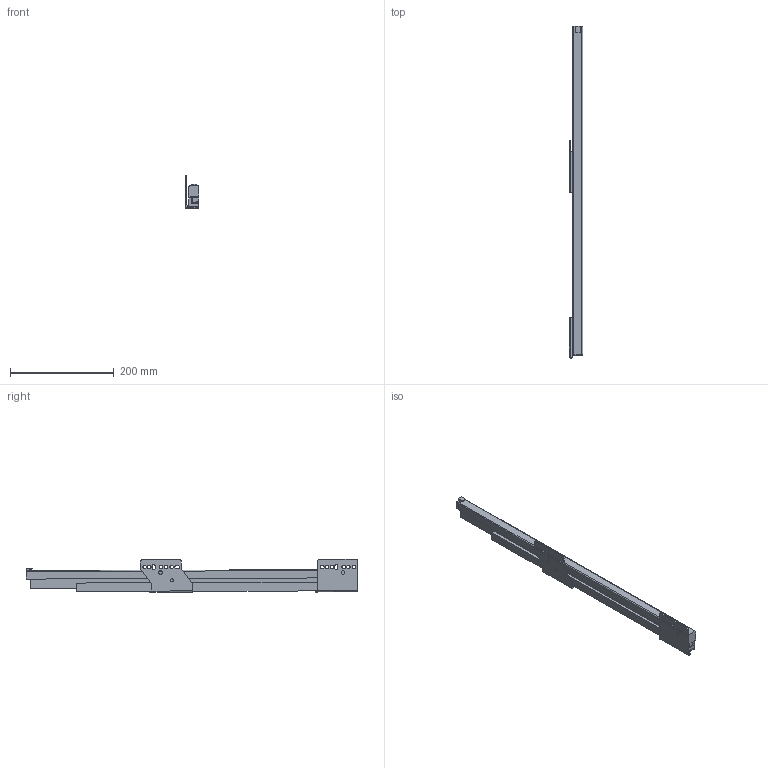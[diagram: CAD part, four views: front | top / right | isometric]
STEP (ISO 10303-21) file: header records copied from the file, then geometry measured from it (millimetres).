
FILE_DESCRIPTION (( 'STEP AP214' ), '1' );
FILE_NAME ('_IMOS_NOVA-Pro_KS_P907_LI_NL650_EB29.step', '2010-07-06T08:28:53', ( 'grass' ), ( '' ), 'SwSTEP 2.0', 'SolidWorks 2009', '' );
FILE_SCHEMA (( 'AUTOMOTIVE_DESIGN' ));
Length unit declared in the file: millimetre
Products named in the file (1): _IMOS_NOVA-Pro_KS_P907_LI_NL650_EB29
Bounding box: 26.75 x 640.31 x 64.46 mm (x, y, z)
Volume: 484338.2 mm3; surface area: 195834.4 mm2
Topology: 6 solids, 6 shells, 144 faces, 392 edges, 260 vertices
Faces by surface type: plane 89, cylinder 55
Entity records: 4691 total; most frequent: CARTESIAN_POINT 848, ORIENTED_EDGE 784, DIRECTION 765, EDGE_CURVE 392, LINE 275, VECTOR 275, VERTEX_POINT 260, AXIS2_PLACEMENT_3D 245
